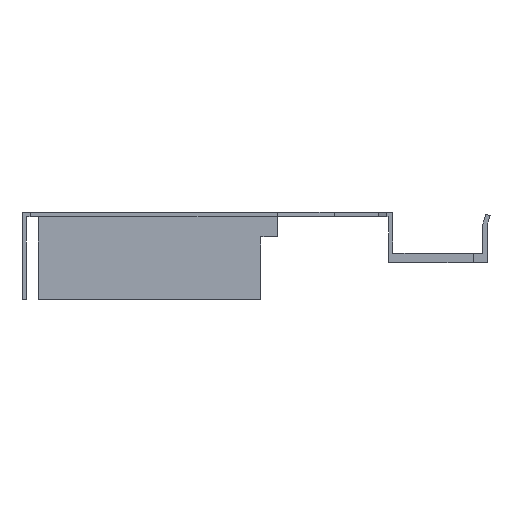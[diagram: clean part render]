
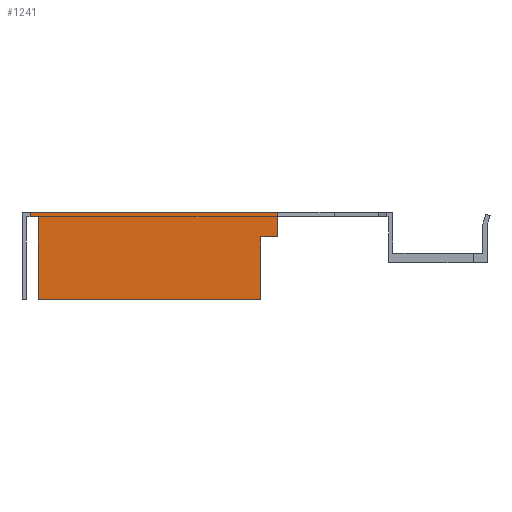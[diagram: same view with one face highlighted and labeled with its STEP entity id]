
A CAD part, left-side view. The second image highlights one B-rep face of the part: STEP entity #1241.
In plain terms, the highlighted planar face has unit normal (-1, 0, 0).
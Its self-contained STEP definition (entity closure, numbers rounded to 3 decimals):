
#1 = DIRECTION ( 'NONE',  ( 0., 0., -1. ) ) ;
#2 = CARTESIAN_POINT ( 'NONE',  ( -913., 21.2, 0. ) ) ;
#53 = DIRECTION ( 'NONE',  ( 0., -1., 0. ) ) ;
#72 = CARTESIAN_POINT ( 'NONE',  ( -913., 65., -8.5 ) ) ;
#140 = DIRECTION ( 'NONE',  ( 0., 0., 1. ) ) ;
#142 = CARTESIAN_POINT ( 'NONE',  ( -913., 24.2, -8.5 ) ) ;
#144 = CARTESIAN_POINT ( 'NONE',  ( -913., 24.2, -8.5 ) ) ;
#157 = CARTESIAN_POINT ( 'NONE',  ( -913., 65., -8.5 ) ) ;
#164 = DIRECTION ( 'NONE',  ( 0., -1., 0. ) ) ;
#169 = CARTESIAN_POINT ( 'NONE',  ( -913., 0., 7.5 ) ) ;
#175 = DIRECTION ( 'NONE',  ( 0., -1., 0. ) ) ;
#177 = CARTESIAN_POINT ( 'NONE',  ( -913., 24.2, 3. ) ) ;
#198 = CARTESIAN_POINT ( 'NONE',  ( -913., 21.2, 7.5 ) ) ;
#223 = CARTESIAN_POINT ( 'NONE',  ( -913., 66.5, 6.7 ) ) ;
#293 = CARTESIAN_POINT ( 'NONE',  ( -913., 21.2, 3. ) ) ;
#297 = CARTESIAN_POINT ( 'NONE',  ( -913., 24.2, 3. ) ) ;
#317 = VERTEX_POINT ( 'NONE', #1674 ) ;
#318 = DIRECTION ( 'NONE',  ( 0., 0., 1. ) ) ;
#319 = DIRECTION ( 'NONE',  ( -1., 0., 0. ) ) ;
#328 = CARTESIAN_POINT ( 'NONE',  ( -913., -16.5, 0. ) ) ;
#334 = PLANE ( 'NONE',  #1450 ) ;
#339 = VERTEX_POINT ( 'NONE', #297 ) ;
#341 = VERTEX_POINT ( 'NONE', #293 ) ;
#385 = VERTEX_POINT ( 'NONE', #223 ) ;
#405 = VERTEX_POINT ( 'NONE', #198 ) ;
#436 = VERTEX_POINT ( 'NONE', #157 ) ;
#445 = VERTEX_POINT ( 'NONE', #142 ) ;
#514 = VERTEX_POINT ( 'NONE', #516 ) ;
#516 = CARTESIAN_POINT ( 'NONE',  ( -913., 66.5, 7.5 ) ) ;
#545 = LINE ( 'NONE', #1139, #546 ) ;
#546 = VECTOR ( 'NONE', #1140, 1000. ) ;
#547 = LINE ( 'NONE', #1141, #548 ) ;
#548 = VECTOR ( 'NONE', #1142, 1000. ) ;
#636 = FACE_OUTER_BOUND ( 'NONE', #914, .T. ) ;
#683 = LINE ( 'NONE', #177, #684 ) ;
#684 = VECTOR ( 'NONE', #175, 1000. ) ;
#686 = LINE ( 'NONE', #169, #690 ) ;
#690 = VECTOR ( 'NONE', #164, 1000. ) ;
#702 = LINE ( 'NONE', #144, #705 ) ;
#705 = VECTOR ( 'NONE', #140, 1000. ) ;
#776 = LINE ( 'NONE', #72, #778 ) ;
#778 = VECTOR ( 'NONE', #53, 1000. ) ;
#834 = LINE ( 'NONE', #2, #835 ) ;
#835 = VECTOR ( 'NONE', #1, 1000. ) ;
#889 = LINE ( 'NONE', #1121, #890 ) ;
#890 = VECTOR ( 'NONE', #1122, 1000. ) ;
#914 = EDGE_LOOP ( 'NONE', ( #1282, #1497, #1498, #1499, #1500, #1501, #1502, #1503 ) ) ;
#1121 = CARTESIAN_POINT ( 'NONE',  ( -913., 65., 7.5 ) ) ;
#1122 = DIRECTION ( 'NONE',  ( 0., 0., -1. ) ) ;
#1139 = CARTESIAN_POINT ( 'NONE',  ( -913., 66.5, 6.7 ) ) ;
#1140 = DIRECTION ( 'NONE',  ( 0., 0., 1. ) ) ;
#1141 = CARTESIAN_POINT ( 'NONE',  ( -913., 0.8, 6.7 ) ) ;
#1142 = DIRECTION ( 'NONE',  ( 0., 1., 0. ) ) ;
#1241 = ADVANCED_FACE ( 'NONE', ( #636 ), #334, .T. ) ;
#1282 = ORIENTED_EDGE ( 'NONE', *, *, #1455, .F. ) ;
#1294 = EDGE_CURVE ( 'NONE', #339, #341, #683, .T. ) ;
#1298 = EDGE_CURVE ( 'NONE', #514, #405, #686, .T. ) ;
#1306 = EDGE_CURVE ( 'NONE', #445, #339, #702, .T. ) ;
#1344 = EDGE_CURVE ( 'NONE', #436, #445, #776, .T. ) ;
#1377 = EDGE_CURVE ( 'NONE', #405, #341, #834, .T. ) ;
#1421 = EDGE_CURVE ( 'NONE', #317, #436, #889, .T. ) ;
#1450 = AXIS2_PLACEMENT_3D ( 'NONE', #328, #319, #318 ) ;
#1455 = EDGE_CURVE ( 'NONE', #385, #514, #545, .T. ) ;
#1456 = EDGE_CURVE ( 'NONE', #317, #385, #547, .T. ) ;
#1497 = ORIENTED_EDGE ( 'NONE', *, *, #1456, .F. ) ;
#1498 = ORIENTED_EDGE ( 'NONE', *, *, #1421, .T. ) ;
#1499 = ORIENTED_EDGE ( 'NONE', *, *, #1344, .T. ) ;
#1500 = ORIENTED_EDGE ( 'NONE', *, *, #1306, .T. ) ;
#1501 = ORIENTED_EDGE ( 'NONE', *, *, #1294, .T. ) ;
#1502 = ORIENTED_EDGE ( 'NONE', *, *, #1377, .F. ) ;
#1503 = ORIENTED_EDGE ( 'NONE', *, *, #1298, .F. ) ;
#1674 = CARTESIAN_POINT ( 'NONE',  ( -913., 65., 6.7 ) ) ;
